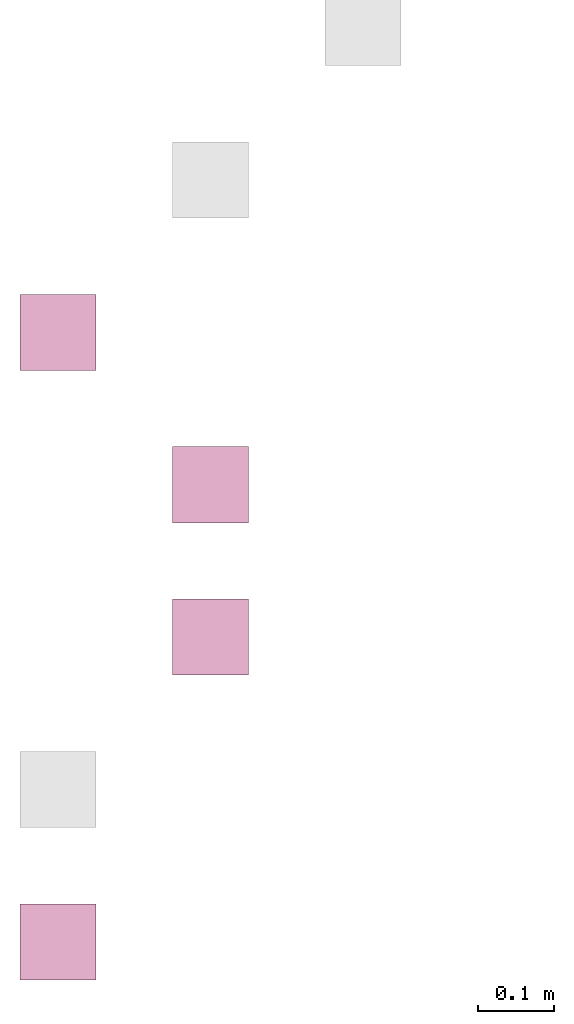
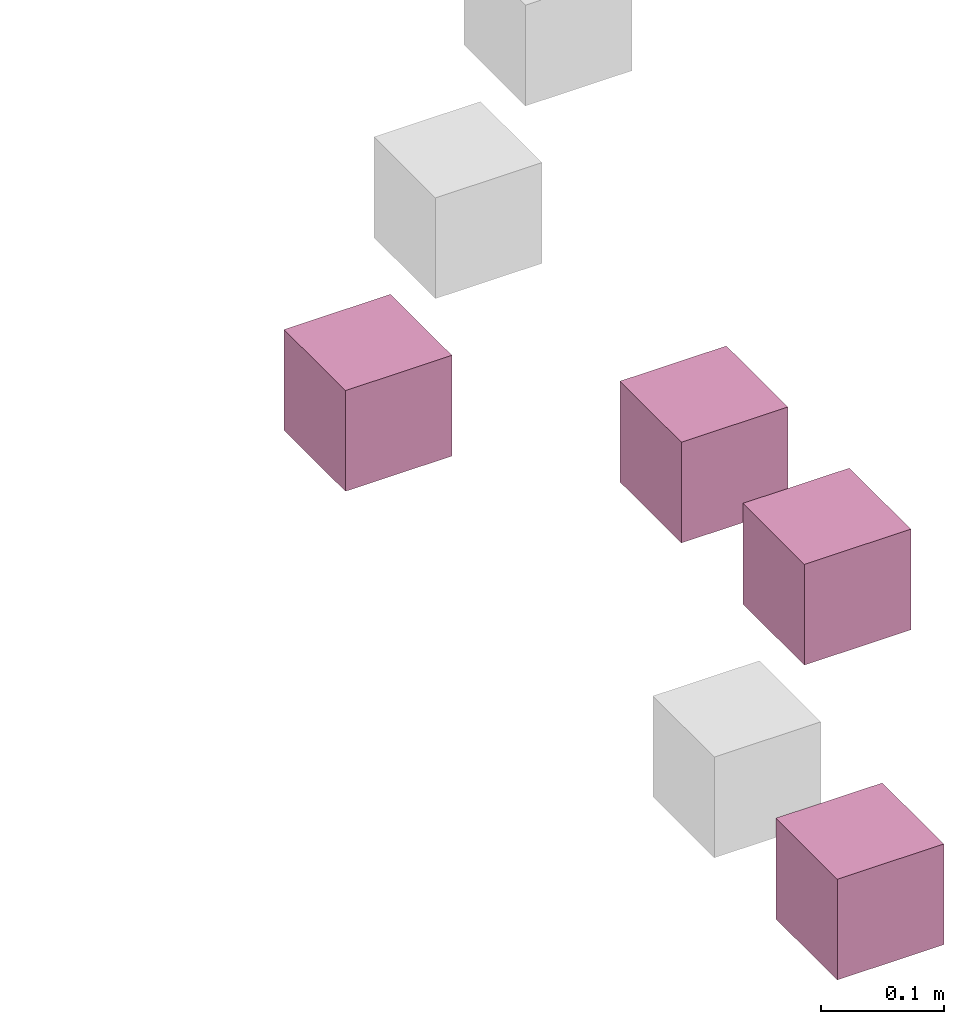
# One storey, part 6 of 7: 1 furnishing, 1 furniture element, 1 system furniture element, 1 transport element.
"""IFC4 building model written with IfcOpenShell, lengths in millimetres."""

from ifc_helpers import new_model, entity, si_unit, converted_unit, derived_unit, direction, frame, origin, origin_2d_with_axis, place, context, subcontext, project, spatial, rectangle, extrude, source, transform, mapped, material, type_object, type_shapes, element, save


model = new_model("IFC4")

# Units and contexts
model_context = context("Model", 3, precision=0.01, world=origin(), true_north=direction((6.12303176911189e-17, 1.0)))
body_context = subcontext(model_context, "Body", "Model", "MODEL_VIEW")
ifc_project = project(units=[si_unit("LENGTHUNIT", "METRE", prefix="MILLI"), si_unit("AREAUNIT", "SQUARE_METRE"), si_unit("VOLUMEUNIT", "CUBIC_METRE"), converted_unit("PLANEANGLEUNIT", "DEGREE", entity("IfcRatioMeasure", 0.0174532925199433), si_unit("PLANEANGLEUNIT", "RADIAN"), dimensions=[0, 0, 0, 0, 0, 0, 0]), si_unit("MASSUNIT", "GRAM", prefix="KILO"), derived_unit("MASSDENSITYUNIT", [(si_unit("MASSUNIT", "GRAM", prefix="KILO"), 1), (si_unit("LENGTHUNIT", "METRE"), -3)]), derived_unit("MOMENTOFINERTIAUNIT", [(si_unit("LENGTHUNIT", "METRE"), 4)]), si_unit("TIMEUNIT", "SECOND"), si_unit("FREQUENCYUNIT", "HERTZ"), si_unit("THERMODYNAMICTEMPERATUREUNIT", "DEGREE_CELSIUS"), derived_unit("THERMALTRANSMITTANCEUNIT", [(si_unit("MASSUNIT", "GRAM", prefix="KILO"), 1), (si_unit("THERMODYNAMICTEMPERATUREUNIT", "KELVIN"), -1), (si_unit("TIMEUNIT", "SECOND"), -3)]), derived_unit("VOLUMETRICFLOWRATEUNIT", [(si_unit("LENGTHUNIT", "METRE"), 3), (si_unit("TIMEUNIT", "SECOND"), -1)]), si_unit("ELECTRICCURRENTUNIT", "AMPERE"), si_unit("ELECTRICVOLTAGEUNIT", "VOLT"), si_unit("POWERUNIT", "WATT"), si_unit("FORCEUNIT", "NEWTON", prefix="KILO"), si_unit("ILLUMINANCEUNIT", "LUX"), si_unit("LUMINOUSFLUXUNIT", "LUMEN"), si_unit("LUMINOUSINTENSITYUNIT", "CANDELA"), derived_unit("USERDEFINED", [(si_unit("MASSUNIT", "GRAM", prefix="KILO"), -1), (si_unit("LENGTHUNIT", "METRE"), -2), (si_unit("TIMEUNIT", "SECOND"), 3), (si_unit("LUMINOUSFLUXUNIT", "LUMEN"), 1)]), derived_unit("LINEARVELOCITYUNIT", [(si_unit("LENGTHUNIT", "METRE"), 1), (si_unit("TIMEUNIT", "SECOND"), -1)]), si_unit("PRESSUREUNIT", "PASCAL"), derived_unit("USERDEFINED", [(si_unit("LENGTHUNIT", "METRE"), -2), (si_unit("MASSUNIT", "GRAM", prefix="KILO"), 1), (si_unit("TIMEUNIT", "SECOND"), -2)]), derived_unit("LINEARFORCEUNIT", [(si_unit("MASSUNIT", "GRAM", prefix="KILO"), 1), (si_unit("LENGTHUNIT", "METRE"), 1), (si_unit("TIMEUNIT", "SECOND"), -2), (si_unit("LENGTHUNIT", "METRE"), -1)]), derived_unit("PLANARFORCEUNIT", [(si_unit("MASSUNIT", "GRAM", prefix="KILO"), 1), (si_unit("LENGTHUNIT", "METRE"), 1), (si_unit("TIMEUNIT", "SECOND"), -2), (si_unit("LENGTHUNIT", "METRE"), -2)])], contexts=[model_context])

# Site, building, storey
site_placement = place(None, origin())
site = spatial("IfcSite", under=ifc_project, at=site_placement, Name="Default", CompositionType="ELEMENT")
building_placement = place(site_placement, origin())
building = spatial("IfcBuilding", under=site, at=building_placement, CompositionType="ELEMENT")
storey_placement = place(building_placement, origin())
storey = spatial("IfcBuildingStorey", under=building, at=storey_placement, Name="Level 1", CompositionType="ELEMENT", Elevation=0.0)

# Furnishing
ifc_material = material(Name="<Unnamed>")
furnishing_element_type = type_object("IfcFurnishingElementType", Name="Generic Ifc Family:Generic Ifc Family", material=ifc_material)
shared_shape_1 = source(origin(), body_context, "Body", "SweptSolid", [
    extrude(rectangle(XDim=100.0, YDim=100.0, at=origin_2d_with_axis()), frame((50.0, 50.0, 0.0), z_axis=(0.0, 0.0, 1.0), x_axis=(0.0, -1.0, 0.0)), (0.0, 0.0, 1.0), 100.0),
])
type_shapes(furnishing_element_type, [shared_shape_1])
furnishing_placement = place(storey_placement, frame((0.0, 1300.0, 0.0), z_axis=(0.0, 0.0, 1.0), x_axis=(0.0, -1.0, 0.0)))
element("IfcFurnishingElement", 1, at=furnishing_placement, inside=storey, type_object=furnishing_element_type, material=ifc_material, Name="Generic Ifc Family:Generic Ifc Family", ObjectType="Generic Ifc Family:Generic Ifc Family", context=body_context, shape_type="MappedRepresentation", body=[
    mapped(shared_shape_1, transform((0.0, 0.0, 0.0), scale=1.0)),
])

# Furniture
furniture_type = type_object("IfcFurnitureType", Name="Generic Ifc Family:Generic Ifc Family", AssemblyPlace="NOTDEFINED", PredefinedType="NOTDEFINED", material=ifc_material)
shared_shape_2 = source(origin(), body_context, "Body", "SweptSolid", [
    extrude(rectangle(XDim=100.0, YDim=100.0, at=origin_2d_with_axis()), frame((50.0, 50.0, 0.0), z_axis=(0.0, 0.0, 1.0), x_axis=(0.0, -1.0, 0.0)), (0.0, 0.0, 1.0), 100.0),
])
type_shapes(furniture_type, [shared_shape_2])
furniture_placement = place(storey_placement, frame((200.0, 1100.0, 0.0), z_axis=(0.0, 0.0, 1.0), x_axis=(0.0, -1.0, 0.0)))
element("IfcFurniture", 2, at=furniture_placement, inside=storey, type_object=furniture_type, material=ifc_material, Name="Generic Ifc Family:Generic Ifc Family", ObjectType="Generic Ifc Family:Generic Ifc Family", PredefinedType="NOTDEFINED", context=body_context, shape_type="MappedRepresentation", body=[
    mapped(shared_shape_2, transform((0.0, 0.0, 0.0), scale=1.0)),
])

# System furniture element
system_furniture_element_type = type_object("IfcSystemFurnitureElementType", Name="Generic Ifc Family:Generic Ifc Family", PredefinedType="NOTDEFINED", material=ifc_material)
shared_shape_3 = source(origin(), body_context, "Body", "SweptSolid", [
    extrude(rectangle(XDim=100.0, YDim=100.0, at=origin_2d_with_axis()), frame((50.0, 50.0, 0.0), z_axis=(0.0, 0.0, 1.0), x_axis=(0.0, -1.0, 0.0)), (0.0, 0.0, 1.0), 100.0),
])
type_shapes(system_furniture_element_type, [shared_shape_3])
system_furniture_element_placement = place(storey_placement, frame((200.0, 900.0, 0.0), z_axis=(0.0, 0.0, 1.0), x_axis=(0.0, -1.0, 0.0)))
element("IfcSystemFurnitureElement", 3, at=system_furniture_element_placement, inside=storey, type_object=system_furniture_element_type, material=ifc_material, Name="Generic Ifc Family:Generic Ifc Family", ObjectType="Generic Ifc Family:Generic Ifc Family", PredefinedType="NOTDEFINED", context=body_context, shape_type="MappedRepresentation", body=[
    mapped(shared_shape_3, transform((0.0, 0.0, 0.0), scale=1.0)),
])

# Transport element
transport_element_type = type_object("IfcTransportElementType", Name="Generic Ifc Family:Generic Ifc Family", PredefinedType="NOTDEFINED", material=ifc_material)
shared_shape_4 = source(origin(), body_context, "Body", "SweptSolid", [
    extrude(rectangle(XDim=100.0, YDim=100.0, at=origin_2d_with_axis()), frame((50.0, 50.0, 0.0), z_axis=(0.0, 0.0, 1.0), x_axis=(0.0, -1.0, 0.0)), (0.0, 0.0, 1.0), 100.0),
])
type_shapes(transport_element_type, [shared_shape_4])
transport_element_placement = place(storey_placement, frame((0.0, 500.0, 0.0), z_axis=(0.0, 0.0, 1.0), x_axis=(0.0, -1.0, 0.0)))
element("IfcTransportElement", 4, at=transport_element_placement, inside=storey, type_object=transport_element_type, material=ifc_material, Name="Generic Ifc Family:Generic Ifc Family", ObjectType="Generic Ifc Family:Generic Ifc Family", PredefinedType="NOTDEFINED", context=body_context, shape_type="MappedRepresentation", body=[
    mapped(shared_shape_4, transform((0.0, 0.0, 0.0), scale=1.0)),
])

save(model, "model.ifc")
